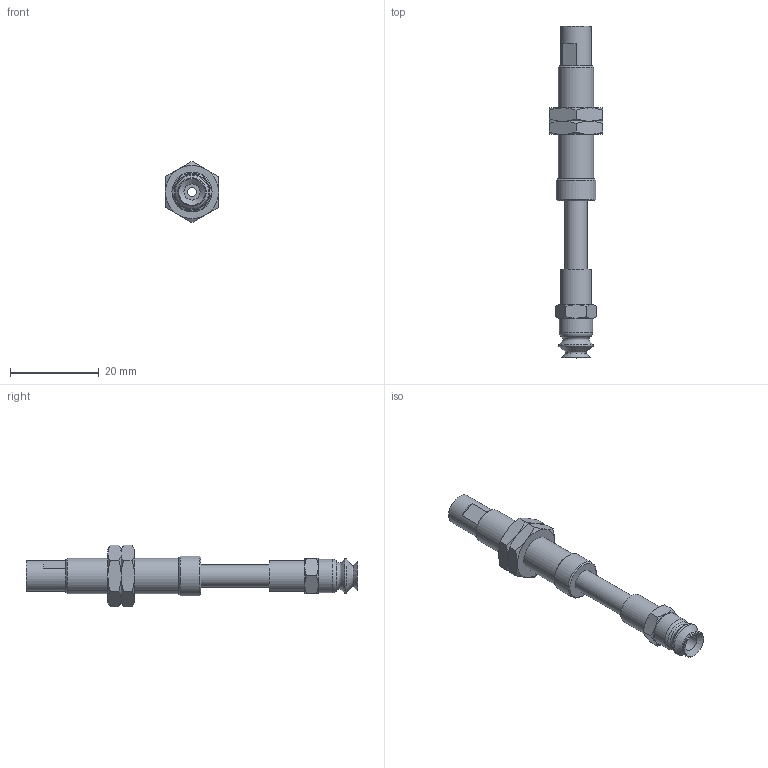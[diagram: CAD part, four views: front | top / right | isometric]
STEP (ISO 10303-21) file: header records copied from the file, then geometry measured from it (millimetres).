
FILE_DESCRIPTION(('STEP AP203'),'1');
FILE_NAME('-PE.stp','2025-04-25T02:19:10',(' '),(' '),'Spatial InterOp 3D',' ',' ');
FILE_SCHEMA(('CONFIG_CONTROL_DESIGN'));
Length unit declared in the file: millimetre
Products named in the file (8): BNABPJTS-6-15-※-PE; NUT; BODY; STOPPER; ZIG; PS-6-J-M- body; BPJG-6-_
Assembly tree (7 placements, depth 2):
  BNABPJTS-6-15-※-PE
    NUT
    NUT
    BODY
    STOPPER
    ZIG
    PS-6-J-M- body
    BPJG-6-_
Bounding box: 12 x 75 x 13.86 mm (x, y, z)
Volume: 3011.2 mm3; surface area: 4580.7 mm2
Topology: 7 solids, 7 shells, 138 faces, 289 edges, 175 vertices
Faces by surface type: cone 57, plane 46, cylinder 25, torus 10
Full cylindrical faces by diameter (mm): 2 x2, 3.4 x1, 3.5 x1, 3.64 x1, 4 x5, 4.2 x2, 5 x3, 5.2 x1, 6 x2, 7 x2, 7.25 x2, 7.5 x1, 8 x1, 9 x1
Entity records: 3686 total; most frequent: CARTESIAN_POINT 724, DIRECTION 550, ORIENTED_EDGE 428, AXIS2_PLACEMENT_3D 262, EDGE_LOOP 218, EDGE_CURVE 214, FACE_OUTER_BOUND 173, VERTEX_POINT 156
